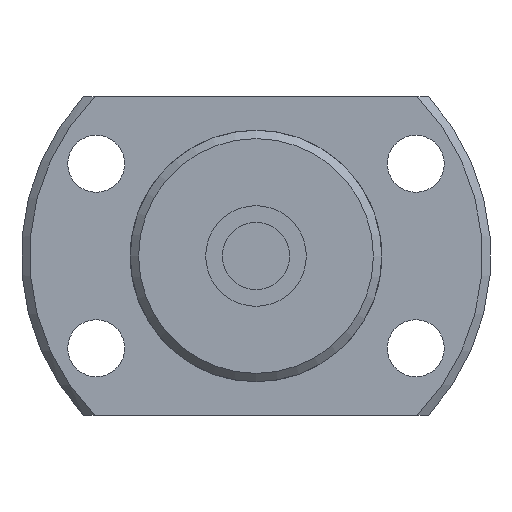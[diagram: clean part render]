
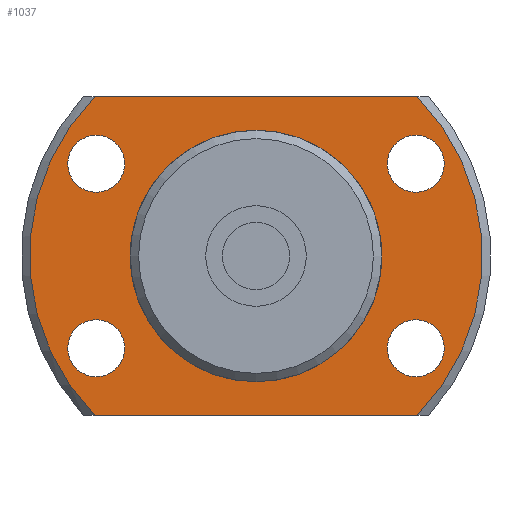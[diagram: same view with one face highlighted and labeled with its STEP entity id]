
A CAD part, left-side view. The second image highlights one B-rep face of the part: STEP entity #1037.
In plain terms, the highlighted planar face has unit normal (-1, 0, 0).
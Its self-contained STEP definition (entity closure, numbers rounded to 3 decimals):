
#101=LINE('',#1825,#145);
#102=LINE('',#1829,#146);
#145=VECTOR('',#1446,1000.);
#146=VECTOR('',#1449,1000.);
#305=ORIENTED_EDGE('',*,*,#527,.T.);
#306=ORIENTED_EDGE('',*,*,#528,.T.);
#307=ORIENTED_EDGE('',*,*,#529,.T.);
#308=ORIENTED_EDGE('',*,*,#530,.T.);
#309=ORIENTED_EDGE('',*,*,#516,.F.);
#310=ORIENTED_EDGE('',*,*,#531,.F.);
#311=ORIENTED_EDGE('',*,*,#532,.F.);
#312=ORIENTED_EDGE('',*,*,#533,.F.);
#313=ORIENTED_EDGE('',*,*,#511,.T.);
#511=EDGE_CURVE('',#631,#631,#703,.T.);
#516=EDGE_CURVE('',#634,#635,#705,.T.);
#527=EDGE_CURVE('',#644,#644,#711,.T.);
#528=EDGE_CURVE('',#645,#645,#712,.T.);
#529=EDGE_CURVE('',#646,#646,#713,.T.);
#530=EDGE_CURVE('',#647,#647,#714,.T.);
#531=EDGE_CURVE('',#648,#634,#101,.T.);
#532=EDGE_CURVE('',#649,#648,#715,.T.);
#533=EDGE_CURVE('',#635,#649,#102,.T.);
#631=VERTEX_POINT('',#1771);
#634=VERTEX_POINT('',#1782);
#635=VERTEX_POINT('',#1784);
#644=VERTEX_POINT('',#1818);
#645=VERTEX_POINT('',#1820);
#646=VERTEX_POINT('',#1822);
#647=VERTEX_POINT('',#1824);
#648=VERTEX_POINT('',#1826);
#649=VERTEX_POINT('',#1828);
#703=CIRCLE('',#1165,7.25);
#705=CIRCLE('',#1168,13.5);
#711=CIRCLE('',#1179,1.7);
#712=CIRCLE('',#1180,1.7);
#713=CIRCLE('',#1181,1.7);
#714=CIRCLE('',#1182,1.7);
#715=CIRCLE('',#1183,13.5);
#797=EDGE_LOOP('',(#305));
#798=EDGE_LOOP('',(#306));
#799=EDGE_LOOP('',(#307));
#800=EDGE_LOOP('',(#308));
#801=EDGE_LOOP('',(#309,#310,#311,#312));
#802=EDGE_LOOP('',(#313));
#911=FACE_BOUND('',#797,.T.);
#912=FACE_BOUND('',#798,.T.);
#913=FACE_BOUND('',#799,.T.);
#914=FACE_BOUND('',#800,.T.);
#915=FACE_BOUND('',#801,.T.);
#916=FACE_BOUND('',#802,.T.);
#981=PLANE('',#1178);
#1037=ADVANCED_FACE('',(#911,#912,#913,#914,#915,#916),#981,.F.);
#1165=AXIS2_PLACEMENT_3D('',#1770,#1406,#1407);
#1168=AXIS2_PLACEMENT_3D('',#1783,#1414,#1415);
#1178=AXIS2_PLACEMENT_3D('',#1816,#1436,#1437);
#1179=AXIS2_PLACEMENT_3D('',#1817,#1438,#1439);
#1180=AXIS2_PLACEMENT_3D('',#1819,#1440,#1441);
#1181=AXIS2_PLACEMENT_3D('',#1821,#1442,#1443);
#1182=AXIS2_PLACEMENT_3D('',#1823,#1444,#1445);
#1183=AXIS2_PLACEMENT_3D('',#1827,#1447,#1448);
#1406=DIRECTION('',(1.,0.,0.));
#1407=DIRECTION('',(0.,0.,-1.));
#1414=DIRECTION('',(1.,0.,0.));
#1415=DIRECTION('',(0.,0.,-1.));
#1436=DIRECTION('',(1.,0.,0.));
#1437=DIRECTION('',(0.,0.,-1.));
#1438=DIRECTION('',(1.,0.,0.));
#1439=DIRECTION('',(0.,0.,-1.));
#1440=DIRECTION('',(1.,0.,0.));
#1441=DIRECTION('',(0.,0.,-1.));
#1442=DIRECTION('',(1.,0.,0.));
#1443=DIRECTION('',(0.,0.,-1.));
#1444=DIRECTION('',(1.,0.,0.));
#1445=DIRECTION('',(0.,0.,-1.));
#1446=DIRECTION('',(0.,1.,0.));
#1447=DIRECTION('',(1.,0.,0.));
#1448=DIRECTION('',(0.,0.,-1.));
#1449=DIRECTION('',(0.,-1.,0.));
#1770=CARTESIAN_POINT('',(13.,0.,0.));
#1771=CARTESIAN_POINT('',(13.,0.,-7.25));
#1782=CARTESIAN_POINT('',(13.,9.592,-9.5));
#1783=CARTESIAN_POINT('',(13.,0.,0.));
#1784=CARTESIAN_POINT('',(13.,9.592,9.5));
#1816=CARTESIAN_POINT('',(13.,7.25,0.));
#1817=CARTESIAN_POINT('',(13.,-9.526,-5.5));
#1818=CARTESIAN_POINT('',(13.,-9.526,-7.2));
#1819=CARTESIAN_POINT('',(13.,-9.526,5.5));
#1820=CARTESIAN_POINT('',(13.,-9.526,3.8));
#1821=CARTESIAN_POINT('',(13.,9.526,-5.5));
#1822=CARTESIAN_POINT('',(13.,9.526,-7.2));
#1823=CARTESIAN_POINT('',(13.,9.526,5.5));
#1824=CARTESIAN_POINT('',(13.,9.526,3.8));
#1825=CARTESIAN_POINT('',(13.,-19.,-9.5));
#1826=CARTESIAN_POINT('',(13.,-9.592,-9.5));
#1827=CARTESIAN_POINT('',(13.,0.,0.));
#1828=CARTESIAN_POINT('',(13.,-9.592,9.5));
#1829=CARTESIAN_POINT('',(13.,19.,9.5));
